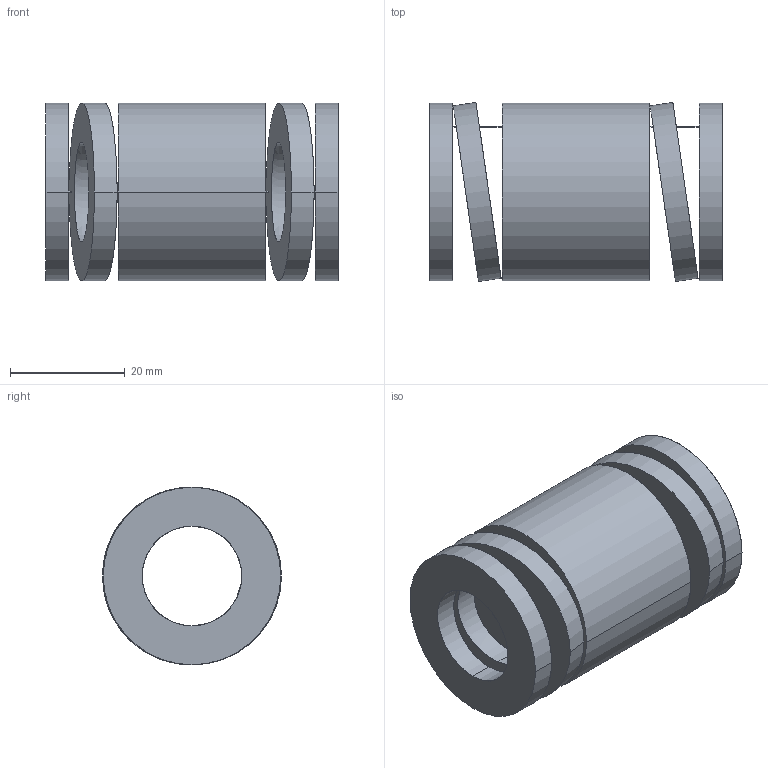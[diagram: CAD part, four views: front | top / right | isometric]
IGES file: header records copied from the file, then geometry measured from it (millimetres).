
Start section: START RECORD GO HERE.
Global section: file name: 392-B32-051.igs; native system: DASSAULT SYSTEMES CATIA V5 R20 - www.3ds.com; preprocessor: CATIA Version 5 Release 20 ; author: Utente; organization: NB04-ASUS; date: 20210813.121050; units: millimetre
Bounding box: 51 x 31.25 x 31 mm (x, y, z)
Surface area: 11525.9 mm2 (no closed solid volume)
Topology: 0 solids, 0 shells, 38 faces, 184 edges, 184 vertices
Faces by surface type: revolution 28, plane 10
